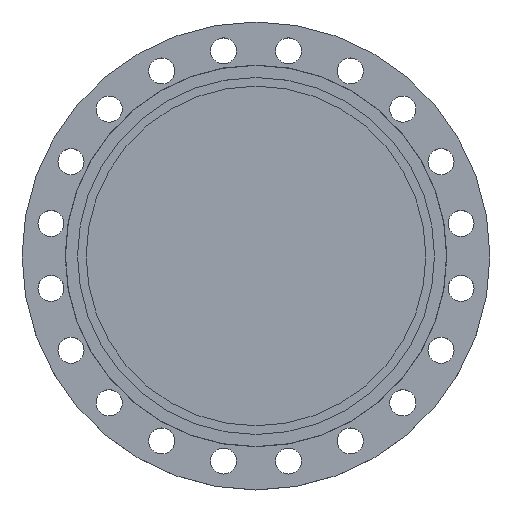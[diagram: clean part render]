
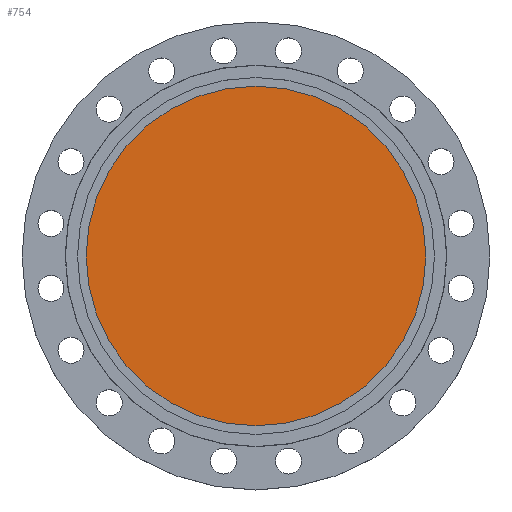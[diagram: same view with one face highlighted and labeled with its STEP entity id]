
A CAD part, top view. The second image highlights one B-rep face of the part: STEP entity #754.
In plain terms, the highlighted planar face has unit normal (0, 0, 1).
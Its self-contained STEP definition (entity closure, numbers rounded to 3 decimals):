
#64 = DIRECTION ( 'NONE',  ( 0., 0., 1. ) ) ;
#121 = CIRCLE ( 'NONE', #125, 274. ) ;
#125 = AXIS2_PLACEMENT_3D ( 'NONE', #1101, #1714, #282 ) ;
#211 = FACE_OUTER_BOUND ( 'NONE', #890, .T. ) ;
#282 = DIRECTION ( 'NONE',  ( -1., 0., 0. ) ) ;
#435 = CARTESIAN_POINT ( 'NONE',  ( 0., 0., 0. ) ) ;
#635 = EDGE_CURVE ( 'NONE', #1495, #1587, #640, .T. ) ;
#640 = CIRCLE ( 'NONE', #643, 274. ) ;
#643 = AXIS2_PLACEMENT_3D ( 'NONE', #435, #1096, #1706 ) ;
#689 = AXIS2_PLACEMENT_3D ( 'NONE', #1469, #64, #697 ) ;
#697 = DIRECTION ( 'NONE',  ( 1., 0., 0. ) ) ;
#754 = ADVANCED_FACE ( 'NONE', ( #211 ), #865, .T. ) ;
#865 = PLANE ( 'NONE',  #689 ) ;
#890 = EDGE_LOOP ( 'NONE', ( #1841, #1512 ) ) ;
#967 = EDGE_CURVE ( 'NONE', #1587, #1495, #121, .T. ) ;
#1096 = DIRECTION ( 'NONE',  ( 0., 0., -1. ) ) ;
#1101 = CARTESIAN_POINT ( 'NONE',  ( 0., 0., 0. ) ) ;
#1171 = CARTESIAN_POINT ( 'NONE',  ( -274., 0., 0. ) ) ;
#1469 = CARTESIAN_POINT ( 'NONE',  ( 0., 0., 0. ) ) ;
#1495 = VERTEX_POINT ( 'NONE', #1573 ) ;
#1512 = ORIENTED_EDGE ( 'NONE', *, *, #635, .F. ) ;
#1573 = CARTESIAN_POINT ( 'NONE',  ( 274., 0., 0. ) ) ;
#1587 = VERTEX_POINT ( 'NONE', #1171 ) ;
#1706 = DIRECTION ( 'NONE',  ( -1., 0., 0. ) ) ;
#1714 = DIRECTION ( 'NONE',  ( 0., 0., -1. ) ) ;
#1841 = ORIENTED_EDGE ( 'NONE', *, *, #967, .F. ) ;
